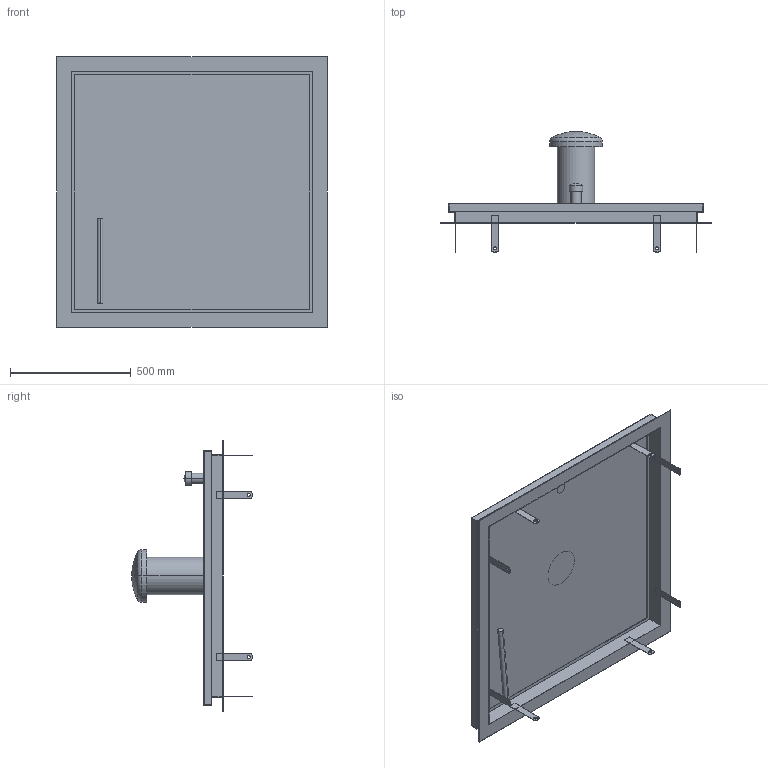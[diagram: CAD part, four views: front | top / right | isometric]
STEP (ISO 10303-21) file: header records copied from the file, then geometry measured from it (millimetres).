
FILE_DESCRIPTION((''),'2;1');
FILE_NAME('017_000105','2017-05-22T',('slc'),('HUBER SE'),'PRO/ENGINEER BY PARAMETRIC TECHNOLOGY CORPORATION, 2015280','PRO/ENGINEER BY PARAMETRIC TECHNOLOGY CORPORATION, 2015280','');
FILE_SCHEMA(('CONFIG_CONTROL_DESIGN'));
Length unit declared in the file: millimetre
Products named in the file (1): 017_000105
Bounding box: 1120 x 499 x 1120 mm (x, y, z)
Volume: 10138839.5 mm3; surface area: 3907225.7 mm2
Topology: 3 solids, 3 shells, 115 faces, 419 edges, 337 vertices
Faces by surface type: plane 75, cylinder 34, sphere 2, torus 2, bspline 2
Entity records: 4291 total; most frequent: CARTESIAN_POINT 910, DIRECTION 672, ORIENTED_EDGE 572, VECTOR 292, LINE 292, EDGE_CURVE 286, AXIS2_PLACEMENT_3D 190, VERTEX_POINT 184
